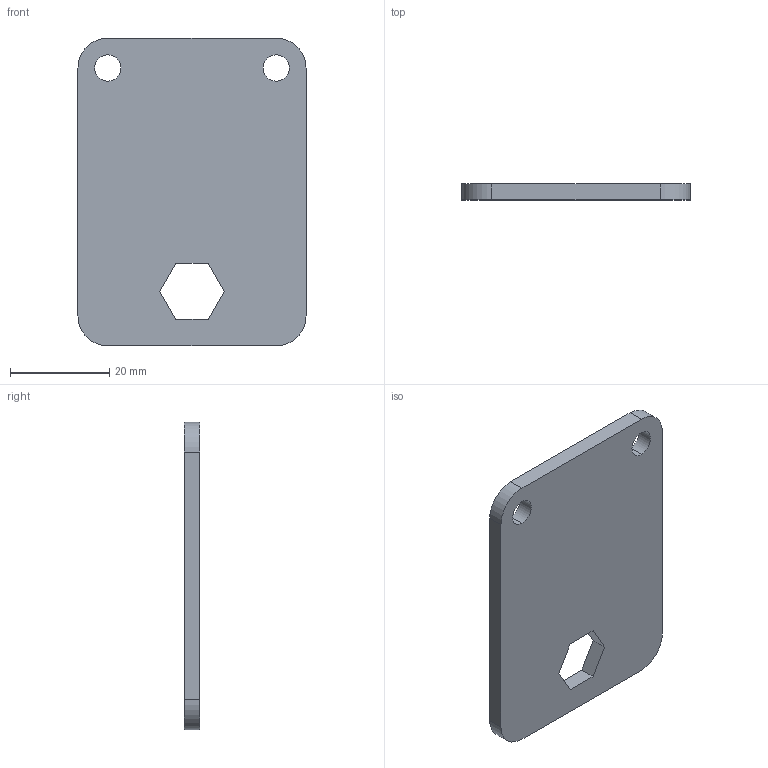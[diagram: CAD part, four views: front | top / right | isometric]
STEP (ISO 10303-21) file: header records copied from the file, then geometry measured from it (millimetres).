
FILE_DESCRIPTION (( 'STEP AP203' ), '1' );
FILE_NAME ('WA- 620.STEP', '2022-10-31T05:36:42', ( '' ), ( '' ), 'SwSTEP 2.0', 'SolidWorks 2017', '' );
FILE_SCHEMA (( 'CONFIG_CONTROL_DESIGN' ));
Length unit declared in the file: millimetre
Products named in the file (1): WA- 620
Bounding box: 46 x 3.2 x 62 mm (x, y, z)
Volume: 8532.5 mm3; surface area: 6222.8 mm2
Topology: 1 solids, 1 shells, 20 faces, 54 edges, 36 vertices
Faces by surface type: plane 12, cylinder 8
Entity records: 723 total; most frequent: DIRECTION 112, CARTESIAN_POINT 111, ORIENTED_EDGE 108, EDGE_CURVE 54, VECTOR 38, LINE 38, AXIS2_PLACEMENT_3D 37, VERTEX_POINT 36
